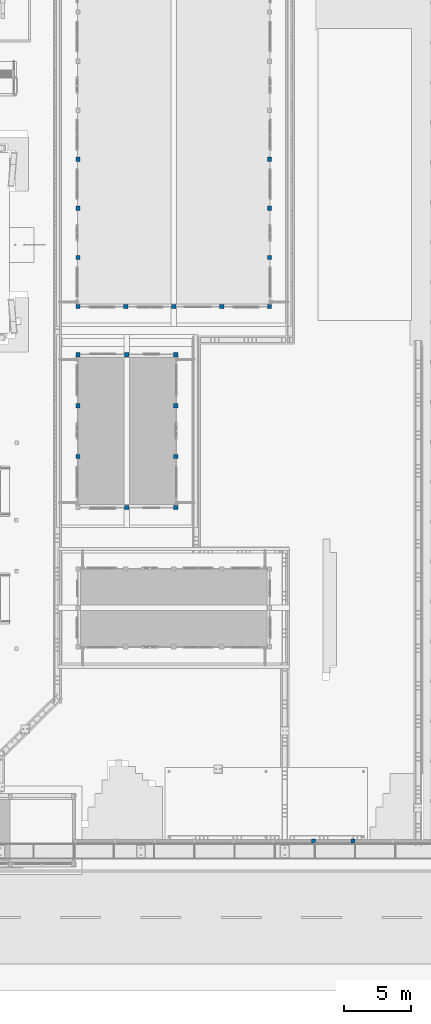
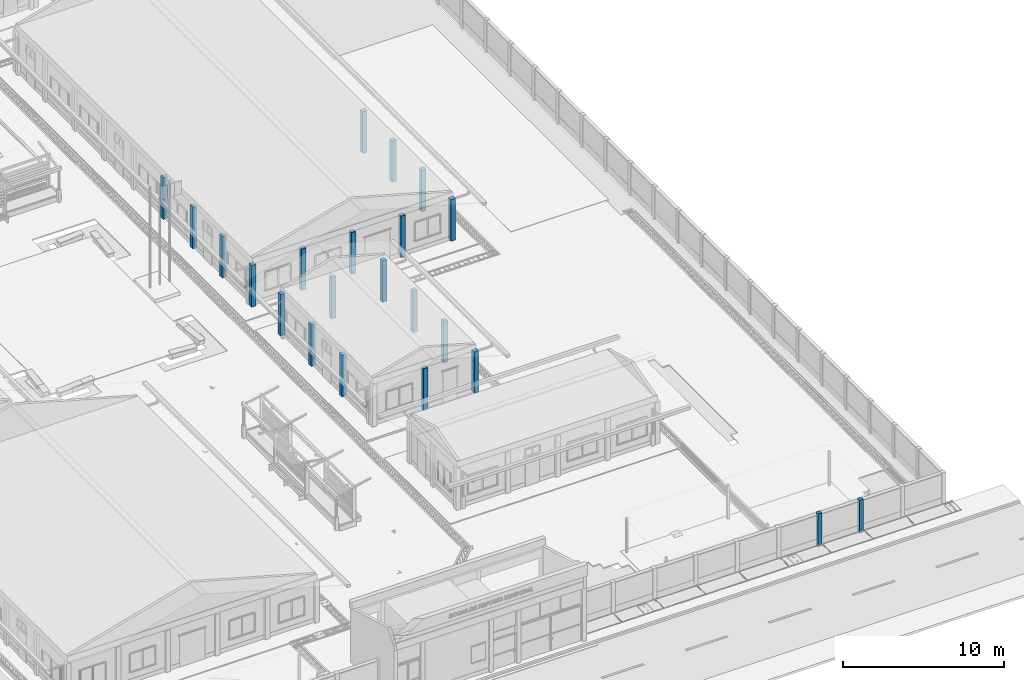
# One storey, part 4 of 151: 27 columns.
"""IFC2X3 building model written with IfcOpenShell, lengths in metres."""

from ifc_helpers import new_model, si_unit, origin, origin_with_axes, place, context, subcontext, project, spatial, faceted_brep, element, save


model = new_model("IFC2X3")

# Units and contexts
model_context = context("Model", 3, precision=1e-05, world=origin_with_axes())
body_context = subcontext(model_context, "Body", "Model", "MODEL_VIEW")
ifc_project = project(units=[si_unit("LENGTHUNIT", "METRE"), si_unit("AREAUNIT", "SQUARE_METRE"), si_unit("VOLUMEUNIT", "CUBIC_METRE"), si_unit("PLANEANGLEUNIT", "RADIAN")], contexts=[model_context])

# Site, building, storey
site_placement = place(None, origin_with_axes())
site = spatial("IfcSite", under=ifc_project, at=site_placement, Name="Predio Los Mangos - Morales, San Martín", CompositionType="ELEMENT")
building_placement = place(site_placement, origin())
building = spatial("IfcBuilding", under=site, at=building_placement, Name="Hogar de Refugio Temporal", CompositionType="ELEMENT")
storey_placement = place(building_placement, origin())
storey = spatial("IfcBuildingStorey", under=building, at=storey_placement, Name="NIVEL 1 (NPT +0.00)", CompositionType="ELEMENT", Elevation=0.0)

# Columns
column_1_placement = place(storey_placement, origin())
element("IfcColumn", 1, at=column_1_placement, inside=storey, Name="E-02_col", ObjectType="Columna", context=body_context, shape_type="Brep", body=[
    faceted_brep([(48.79, 42.74, 0.15), (48.79, 43.06, 0.15), (49.11, 43.06, 0.15), (49.11, 42.74, 0.15), (48.79, 42.74, 3.3), (49.11, 42.74, 3.3), (49.11, 43.06, 3.3), (48.79, 43.06, 3.3)], [[[0, 1, 2, 3]], [[4, 5, 6, 7]], [[0, 3, 5, 4]], [[3, 2, 6, 5]], [[2, 1, 7, 6]], [[1, 0, 4, 7]]]),
])
column_2_placement = place(storey_placement, origin())
element("IfcColumn", 2, at=column_2_placement, inside=storey, Name="E-02_col", ObjectType="Columna", context=body_context, shape_type="Brep", body=[
    faceted_brep([(52.44, 42.74, 0.15), (52.44, 43.06, 0.15), (52.76, 43.06, 0.15), (52.76, 42.74, 0.15), (52.44, 42.74, 3.3), (52.76, 42.74, 3.3), (52.76, 43.06, 3.3), (52.44, 43.06, 3.3)], [[[0, 1, 2, 3]], [[4, 5, 6, 7]], [[0, 3, 5, 4]], [[3, 2, 6, 5]], [[2, 1, 7, 6]], [[1, 0, 4, 7]]]),
])
column_3_placement = place(storey_placement, origin())
element("IfcColumn", 3, at=column_3_placement, inside=storey, Name="E-02_col", ObjectType="Columna", context=body_context, shape_type="Brep", body=[
    faceted_brep([(45.14, 54.14, 0.15), (45.14, 54.46, 0.15), (45.46, 54.46, 0.15), (45.46, 54.14, 0.15), (45.14, 54.14, 3.3), (45.46, 54.14, 3.3), (45.46, 54.46, 3.3), (45.14, 54.46, 3.3)], [[[0, 1, 2, 3]], [[4, 5, 6, 7]], [[0, 3, 5, 4]], [[3, 2, 6, 5]], [[2, 1, 7, 6]], [[1, 0, 4, 7]]]),
])
column_4_placement = place(storey_placement, origin())
element("IfcColumn", 4, at=column_4_placement, inside=storey, Name="E-02_col", ObjectType="Columna", context=body_context, shape_type="Brep", body=[
    faceted_brep([(48.79, 54.14, 0.15), (48.79, 54.46, 0.15), (49.11, 54.46, 0.15), (49.11, 54.14, 0.15), (48.79, 54.14, 3.3), (49.11, 54.14, 3.3), (49.11, 54.46, 3.3), (48.79, 54.46, 3.3)], [[[0, 1, 2, 3]], [[4, 5, 6, 7]], [[0, 3, 5, 4]], [[3, 2, 6, 5]], [[2, 1, 7, 6]], [[1, 0, 4, 7]]]),
])
column_5_placement = place(storey_placement, origin())
element("IfcColumn", 5, at=column_5_placement, inside=storey, Name="E-02_col", ObjectType="Columna", context=body_context, shape_type="Brep", body=[
    faceted_brep([(52.44, 54.14, 0.15), (52.44, 54.46, 0.15), (52.76, 54.46, 0.15), (52.76, 54.14, 0.15), (52.44, 54.14, 3.3), (52.76, 54.14, 3.3), (52.76, 54.46, 3.3), (52.44, 54.46, 3.3)], [[[0, 1, 2, 3]], [[4, 5, 6, 7]], [[0, 3, 5, 4]], [[3, 2, 6, 5]], [[2, 1, 7, 6]], [[1, 0, 4, 7]]]),
])
column_6_placement = place(storey_placement, origin())
element("IfcColumn", 6, at=column_6_placement, inside=storey, Name="E-02_col", ObjectType="Columna", context=body_context, shape_type="Brep", body=[
    faceted_brep([(45.14, 46.54, 0.15), (45.14, 46.86, 0.15), (45.46, 46.86, 0.15), (45.46, 46.54, 0.15), (45.14, 46.54, 3.3), (45.46, 46.54, 3.3), (45.46, 46.86, 3.3), (45.14, 46.86, 3.3)], [[[0, 1, 2, 3]], [[4, 5, 6, 7]], [[0, 3, 5, 4]], [[3, 2, 6, 5]], [[2, 1, 7, 6]], [[1, 0, 4, 7]]]),
])
column_7_placement = place(storey_placement, origin())
element("IfcColumn", 7, at=column_7_placement, inside=storey, Name="E-02_col", ObjectType="Columna", context=body_context, shape_type="Brep", body=[
    faceted_brep([(45.14, 50.34, 0.15), (45.14, 50.66, 0.15), (45.46, 50.66, 0.15), (45.46, 50.34, 0.15), (45.14, 50.34, 3.3), (45.46, 50.34, 3.3), (45.46, 50.66, 3.3), (45.14, 50.66, 3.3)], [[[0, 1, 2, 3]], [[4, 5, 6, 7]], [[0, 3, 5, 4]], [[3, 2, 6, 5]], [[2, 1, 7, 6]], [[1, 0, 4, 7]]]),
])
column_8_placement = place(storey_placement, origin())
element("IfcColumn", 8, at=column_8_placement, inside=storey, Name="E-02_col", ObjectType="Columna", context=body_context, shape_type="Brep", body=[
    faceted_brep([(45.14, 54.14, 0.15), (45.14, 54.46, 0.15), (45.46, 54.46, 0.15), (45.46, 54.14, 0.15), (45.14, 54.14, 3.3), (45.46, 54.14, 3.3), (45.46, 54.46, 3.3), (45.14, 54.46, 3.3)], [[[0, 1, 2, 3]], [[4, 5, 6, 7]], [[0, 3, 5, 4]], [[3, 2, 6, 5]], [[2, 1, 7, 6]], [[1, 0, 4, 7]]]),
])
column_9_placement = place(storey_placement, origin())
element("IfcColumn", 9, at=column_9_placement, inside=storey, Name="E-02_col", ObjectType="Columna", context=body_context, shape_type="Brep", body=[
    faceted_brep([(52.44, 42.74, 0.15), (52.44, 43.06, 0.15), (52.76, 43.06, 0.15), (52.76, 42.74, 0.15), (52.44, 42.74, 3.3), (52.76, 42.74, 3.3), (52.76, 43.06, 3.3), (52.44, 43.06, 3.3)], [[[0, 1, 2, 3]], [[4, 5, 6, 7]], [[0, 3, 5, 4]], [[3, 2, 6, 5]], [[2, 1, 7, 6]], [[1, 0, 4, 7]]]),
])
column_10_placement = place(storey_placement, origin())
element("IfcColumn", 10, at=column_10_placement, inside=storey, Name="E-02_col", ObjectType="Columna", context=body_context, shape_type="Brep", body=[
    faceted_brep([(52.44, 46.54, 0.15), (52.44, 46.86, 0.15), (52.76, 46.86, 0.15), (52.76, 46.54, 0.15), (52.44, 46.54, 3.3), (52.76, 46.54, 3.3), (52.76, 46.86, 3.3), (52.44, 46.86, 3.3)], [[[0, 1, 2, 3]], [[4, 5, 6, 7]], [[0, 3, 5, 4]], [[3, 2, 6, 5]], [[2, 1, 7, 6]], [[1, 0, 4, 7]]]),
])
column_11_placement = place(storey_placement, origin())
element("IfcColumn", 11, at=column_11_placement, inside=storey, Name="E-02_col", ObjectType="Columna", context=body_context, shape_type="Brep", body=[
    faceted_brep([(52.44, 50.34, 0.15), (52.44, 50.66, 0.15), (52.76, 50.66, 0.15), (52.76, 50.34, 0.15), (52.44, 50.34, 3.3), (52.76, 50.34, 3.3), (52.76, 50.66, 3.3), (52.44, 50.66, 3.3)], [[[0, 1, 2, 3]], [[4, 5, 6, 7]], [[0, 3, 5, 4]], [[3, 2, 6, 5]], [[2, 1, 7, 6]], [[1, 0, 4, 7]]]),
])
column_12_placement = place(storey_placement, origin())
element("IfcColumn", 12, at=column_12_placement, inside=storey, Name="E-02_col", ObjectType="Columna", context=body_context, shape_type="Brep", body=[
    faceted_brep([(52.44, 54.14, 0.15), (52.44, 54.46, 0.15), (52.76, 54.46, 0.15), (52.76, 54.14, 0.15), (52.44, 54.14, 3.3), (52.76, 54.14, 3.3), (52.76, 54.46, 3.3), (52.44, 54.46, 3.3)], [[[0, 1, 2, 3]], [[4, 5, 6, 7]], [[0, 3, 5, 4]], [[3, 2, 6, 5]], [[2, 1, 7, 6]], [[1, 0, 4, 7]]]),
])
column_13_placement = place(storey_placement, origin())
element("IfcColumn", 13, at=column_13_placement, inside=storey, Name="E-05_col", ObjectType="Columna", context=body_context, shape_type="Brep", body=[
    faceted_brep([(45.14, 57.74, 0.15), (45.14, 58.06, 0.15), (45.46, 58.06, 0.15), (45.46, 57.74, 0.15), (45.14, 57.74, 3.3), (45.46, 57.74, 3.3), (45.46, 58.06, 3.3), (45.14, 58.06, 3.3)], [[[0, 1, 2, 3]], [[4, 5, 6, 7]], [[0, 3, 5, 4]], [[3, 2, 6, 5]], [[2, 1, 7, 6]], [[1, 0, 4, 7]]]),
])
column_14_placement = place(storey_placement, origin())
element("IfcColumn", 14, at=column_14_placement, inside=storey, Name="E-05_col", ObjectType="Columna", context=body_context, shape_type="Brep", body=[
    faceted_brep([(48.715, 57.74, 0.15), (48.715, 58.06, 0.15), (49.035, 58.06, 0.15), (49.035, 57.74, 0.15), (48.715, 57.74, 3.3), (49.035, 57.74, 3.3), (49.035, 58.06, 3.3), (48.715, 58.06, 3.3)], [[[0, 1, 2, 3]], [[4, 5, 6, 7]], [[0, 3, 5, 4]], [[3, 2, 6, 5]], [[2, 1, 7, 6]], [[1, 0, 4, 7]]]),
])
column_15_placement = place(storey_placement, origin())
element("IfcColumn", 15, at=column_15_placement, inside=storey, Name="E-05_col", ObjectType="Columna", context=body_context, shape_type="Brep", body=[
    faceted_brep([(52.29, 57.74, 0.15), (52.29, 58.06, 0.15), (52.61, 58.06, 0.15), (52.61, 57.74, 0.15), (52.29, 57.74, 3.3), (52.61, 57.74, 3.3), (52.61, 58.06, 3.3), (52.29, 58.06, 3.3)], [[[0, 1, 2, 3]], [[4, 5, 6, 7]], [[0, 3, 5, 4]], [[3, 2, 6, 5]], [[2, 1, 7, 6]], [[1, 0, 4, 7]]]),
])
column_16_placement = place(storey_placement, origin())
element("IfcColumn", 16, at=column_16_placement, inside=storey, Name="E-05_col", ObjectType="Columna", context=body_context, shape_type="Brep", body=[
    faceted_brep([(55.865, 57.74, 0.15), (55.865, 58.06, 0.15), (56.185, 58.06, 0.15), (56.185, 57.74, 0.15), (55.865, 57.74, 3.3), (56.185, 57.74, 3.3), (56.185, 58.06, 3.3), (55.865, 58.06, 3.3)], [[[0, 1, 2, 3]], [[4, 5, 6, 7]], [[0, 3, 5, 4]], [[3, 2, 6, 5]], [[2, 1, 7, 6]], [[1, 0, 4, 7]]]),
])
column_17_placement = place(storey_placement, origin())
element("IfcColumn", 17, at=column_17_placement, inside=storey, Name="E-05_col", ObjectType="Columna", context=body_context, shape_type="Brep", body=[
    faceted_brep([(59.44, 57.74, 0.15), (59.44, 58.06, 0.15), (59.76, 58.06, 0.15), (59.76, 57.74, 0.15), (59.44, 57.74, 3.3), (59.76, 57.74, 3.3), (59.76, 58.06, 3.3), (59.44, 58.06, 3.3)], [[[0, 1, 2, 3]], [[4, 5, 6, 7]], [[0, 3, 5, 4]], [[3, 2, 6, 5]], [[2, 1, 7, 6]], [[1, 0, 4, 7]]]),
])
column_18_placement = place(storey_placement, origin())
element("IfcColumn", 18, at=column_18_placement, inside=storey, Name="E-05_col", ObjectType="Columna", context=body_context, shape_type="Brep", body=[
    faceted_brep([(45.14, 57.74, 0.15), (45.14, 58.06, 0.15), (45.46, 58.06, 0.15), (45.46, 57.74, 0.15), (45.14, 57.74, 3.3), (45.46, 57.74, 3.3), (45.46, 58.06, 3.3), (45.14, 58.06, 3.3)], [[[0, 1, 2, 3]], [[4, 5, 6, 7]], [[0, 3, 5, 4]], [[3, 2, 6, 5]], [[2, 1, 7, 6]], [[1, 0, 4, 7]]]),
])
column_19_placement = place(storey_placement, origin())
element("IfcColumn", 19, at=column_19_placement, inside=storey, Name="E-05_col", ObjectType="Columna", context=body_context, shape_type="Brep", body=[
    faceted_brep([(45.14, 61.4025, 0.15), (45.14, 61.7225, 0.15), (45.46, 61.7225, 0.15), (45.46, 61.4025, 0.15), (45.14, 61.4025, 3.3), (45.46, 61.4025, 3.3), (45.46, 61.7225, 3.3), (45.14, 61.7225, 3.3)], [[[0, 1, 2, 3]], [[4, 5, 6, 7]], [[0, 3, 5, 4]], [[3, 2, 6, 5]], [[2, 1, 7, 6]], [[1, 0, 4, 7]]]),
])
column_20_placement = place(storey_placement, origin())
element("IfcColumn", 20, at=column_20_placement, inside=storey, Name="E-05_col", ObjectType="Columna", context=body_context, shape_type="Brep", body=[
    faceted_brep([(45.14, 65.065, 0.15), (45.14, 65.385, 0.15), (45.46, 65.385, 0.15), (45.46, 65.065, 0.15), (45.14, 65.065, 3.3), (45.46, 65.065, 3.3), (45.46, 65.385, 3.3), (45.14, 65.385, 3.3)], [[[0, 1, 2, 3]], [[4, 5, 6, 7]], [[0, 3, 5, 4]], [[3, 2, 6, 5]], [[2, 1, 7, 6]], [[1, 0, 4, 7]]]),
])
column_21_placement = place(storey_placement, origin())
element("IfcColumn", 21, at=column_21_placement, inside=storey, Name="E-05_col", ObjectType="Columna", context=body_context, shape_type="Brep", body=[
    faceted_brep([(45.14, 68.7275, 0.15), (45.14, 69.0475, 0.15), (45.46, 69.0475, 0.15), (45.46, 68.7275, 0.15), (45.14, 68.7275, 3.3), (45.46, 68.7275, 3.3), (45.46, 69.0475, 3.3), (45.14, 69.0475, 3.3)], [[[0, 1, 2, 3]], [[4, 5, 6, 7]], [[0, 3, 5, 4]], [[3, 2, 6, 5]], [[2, 1, 7, 6]], [[1, 0, 4, 7]]]),
])
column_22_placement = place(storey_placement, origin())
element("IfcColumn", 22, at=column_22_placement, inside=storey, Name="E-05_col", ObjectType="Columna", context=body_context, shape_type="Brep", body=[
    faceted_brep([(59.44, 57.74, 0.15), (59.44, 58.06, 0.15), (59.76, 58.06, 0.15), (59.76, 57.74, 0.15), (59.44, 57.74, 3.3), (59.76, 57.74, 3.3), (59.76, 58.06, 3.3), (59.44, 58.06, 3.3)], [[[0, 1, 2, 3]], [[4, 5, 6, 7]], [[0, 3, 5, 4]], [[3, 2, 6, 5]], [[2, 1, 7, 6]], [[1, 0, 4, 7]]]),
])
column_23_placement = place(storey_placement, origin())
element("IfcColumn", 23, at=column_23_placement, inside=storey, Name="E-05_col", ObjectType="Columna", context=body_context, shape_type="Brep", body=[
    faceted_brep([(59.44, 61.4025, 0.15), (59.44, 61.7225, 0.15), (59.76, 61.7225, 0.15), (59.76, 61.4025, 0.15), (59.44, 61.4025, 3.3), (59.76, 61.4025, 3.3), (59.76, 61.7225, 3.3), (59.44, 61.7225, 3.3)], [[[0, 1, 2, 3]], [[4, 5, 6, 7]], [[0, 3, 5, 4]], [[3, 2, 6, 5]], [[2, 1, 7, 6]], [[1, 0, 4, 7]]]),
])
column_24_placement = place(storey_placement, origin())
element("IfcColumn", 24, at=column_24_placement, inside=storey, Name="E-05_col", ObjectType="Columna", context=body_context, shape_type="Brep", body=[
    faceted_brep([(59.44, 65.065, 0.15), (59.44, 65.385, 0.15), (59.76, 65.385, 0.15), (59.76, 65.065, 0.15), (59.44, 65.065, 3.3), (59.76, 65.065, 3.3), (59.76, 65.385, 3.3), (59.44, 65.385, 3.3)], [[[0, 1, 2, 3]], [[4, 5, 6, 7]], [[0, 3, 5, 4]], [[3, 2, 6, 5]], [[2, 1, 7, 6]], [[1, 0, 4, 7]]]),
])
column_25_placement = place(storey_placement, origin())
element("IfcColumn", 25, at=column_25_placement, inside=storey, Name="E-05_col", ObjectType="Columna", context=body_context, shape_type="Brep", body=[
    faceted_brep([(59.44, 68.7275, 0.15), (59.44, 69.0475, 0.15), (59.76, 69.0475, 0.15), (59.76, 68.7275, 0.15), (59.44, 68.7275, 3.3), (59.76, 68.7275, 3.3), (59.76, 69.0475, 3.3), (59.44, 69.0475, 3.3)], [[[0, 1, 2, 3]], [[4, 5, 6, 7]], [[0, 3, 5, 4]], [[3, 2, 6, 5]], [[2, 1, 7, 6]], [[1, 0, 4, 7]]]),
])
column_26_placement = place(storey_placement, origin())
element("IfcColumn", 26, at=column_26_placement, inside=storey, Name="columna_cerco", ObjectType="Columna", context=body_context, shape_type="Brep", body=[
    faceted_brep([(62.7333, 17.86, 0.0), (62.7333, 18.14, 0.0), (63.0133, 18.14, 0.0), (63.0133, 17.86, 0.0), (62.7333, 17.86, 2.5), (63.0133, 17.86, 2.5), (63.0133, 18.14, 2.5), (62.7333, 18.14, 2.5)], [[[0, 1, 2, 3]], [[4, 5, 6, 7]], [[0, 3, 5, 4]], [[3, 2, 6, 5]], [[2, 1, 7, 6]], [[1, 0, 4, 7]]]),
])
column_27_placement = place(storey_placement, origin())
element("IfcColumn", 27, at=column_27_placement, inside=storey, Name="columna_cerco", ObjectType="Columna", context=body_context, shape_type="Brep", body=[
    faceted_brep([(65.6956, 17.86, 0.0), (65.6956, 18.14, 0.0), (65.9756, 18.14, 0.0), (65.9756, 17.86, 0.0), (65.6956, 17.86, 2.5), (65.9756, 17.86, 2.5), (65.9756, 18.14, 2.5), (65.6956, 18.14, 2.5)], [[[0, 1, 2, 3]], [[4, 5, 6, 7]], [[0, 3, 5, 4]], [[3, 2, 6, 5]], [[2, 1, 7, 6]], [[1, 0, 4, 7]]]),
])

save(model, "model.ifc")
